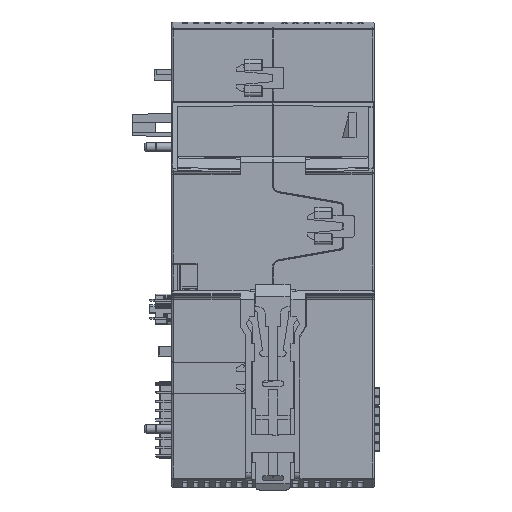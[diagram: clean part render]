
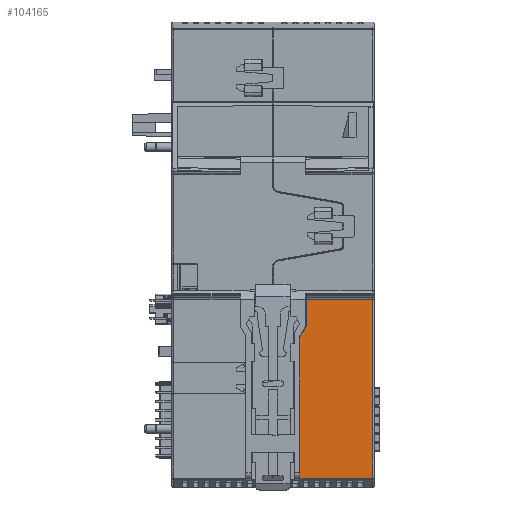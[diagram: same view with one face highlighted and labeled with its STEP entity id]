
A CAD part, front view. The second image highlights one B-rep face of the part: STEP entity #104165.
In plain terms, the highlighted planar face has unit normal (0, -1, 0).
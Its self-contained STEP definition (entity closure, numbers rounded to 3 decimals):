
#42602=DIRECTION('',(0.,0.,1.));
#42603=VECTOR('',#42602,7.554);
#42604=CARTESIAN_POINT('',(49.9,0.,-27.754));
#42605=LINE('',#42604,#42603);
#42609=DIRECTION('',(1.,0.,0.));
#42610=VECTOR('',#42609,18.3);
#42611=CARTESIAN_POINT('',(49.9,0.,-20.2));
#42612=LINE('',#42611,#42610);
#42616=DIRECTION('',(0.,0.,-1.));
#42617=VECTOR('',#42616,49.5);
#42618=CARTESIAN_POINT('',(68.2,0.,-20.2));
#42619=LINE('',#42618,#42617);
#42623=DIRECTION('',(-1.,0.,0.));
#42624=VECTOR('',#42623,20.);
#42625=CARTESIAN_POINT('',(68.2,0.,-69.7));
#42626=LINE('',#42625,#42624);
#42630=DIRECTION('',(0.,0.,-1.));
#42631=VECTOR('',#42630,39.002);
#42632=CARTESIAN_POINT('',(48.2,0.,-30.698));
#42633=LINE('',#42632,#42631);
#42637=DIRECTION('',(0.5,0.,0.866));
#42638=VECTOR('',#42637,3.4);
#42639=CARTESIAN_POINT('',(48.2,0.,-30.698));
#42640=LINE('',#42639,#42638);
#62664=CARTESIAN_POINT('',(48.2,0.,-69.7));
#62666=VERTEX_POINT('',#62664);
#62681=CARTESIAN_POINT('',(68.2,0.,-69.7));
#62682=VERTEX_POINT('',#62681);
#62685=CARTESIAN_POINT('',(68.2,0.,-20.2));
#62686=VERTEX_POINT('',#62685);
#62771=CARTESIAN_POINT('',(49.9,0.,-20.2));
#62772=VERTEX_POINT('',#62771);
#62777=CARTESIAN_POINT('',(49.9,0.,-27.754));
#62778=VERTEX_POINT('',#62777);
#62781=CARTESIAN_POINT('',(48.2,0.,-30.698));
#62782=VERTEX_POINT('',#62781);
#104150=CARTESIAN_POINT('',(40.7,0.,56.5));
#104151=DIRECTION('',(0.,-1.,0.));
#104152=DIRECTION('',(0.,0.,-1.));
#104153=AXIS2_PLACEMENT_3D('',#104150,#104151,#104152);
#104154=PLANE('',#104153);
#104155=ORIENTED_EDGE('',*,*,#90826,.T.);
#104157=ORIENTED_EDGE('',*,*,#104156,.T.);
#104159=ORIENTED_EDGE('',*,*,#104158,.T.);
#104160=ORIENTED_EDGE('',*,*,#104138,.T.);
#104161=ORIENTED_EDGE('',*,*,#90758,.F.);
#104162=ORIENTED_EDGE('',*,*,#90804,.T.);
#104163=EDGE_LOOP('',(#104155,#104157,#104159,#104160,#104161,#104162));
#104164=FACE_OUTER_BOUND('',#104163,.F.);
#90758=EDGE_CURVE('',#62782,#62666,#42633,.T.);
#90804=EDGE_CURVE('',#62782,#62778,#42640,.T.);
#90826=EDGE_CURVE('',#62778,#62772,#42605,.T.);
#104138=EDGE_CURVE('',#62682,#62666,#42626,.T.);
#104156=EDGE_CURVE('',#62772,#62686,#42612,.T.);
#104158=EDGE_CURVE('',#62686,#62682,#42619,.T.);
#104165=ADVANCED_FACE('',(#104164),#104154,.T.);
